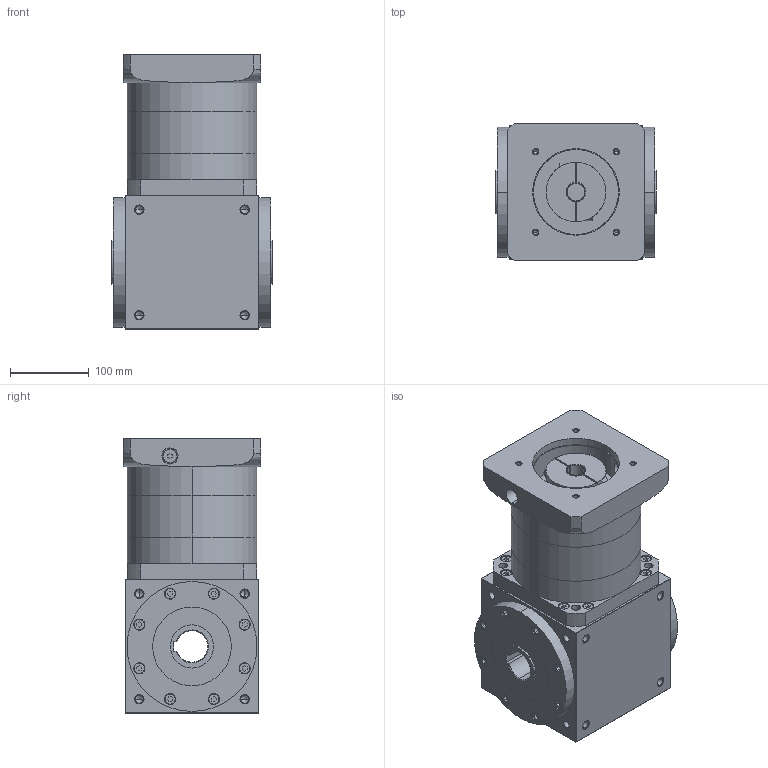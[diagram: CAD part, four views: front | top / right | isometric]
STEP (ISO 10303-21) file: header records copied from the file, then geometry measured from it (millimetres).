
FILE_DESCRIPTION (( 'STEP AP203' ), '1' );
FILE_NAME ('AT170-FH-L2-22-110-145M8.STEP', '2025-08-16T02:10:16', ( 'Windows User' ), ( 'P R C' ), 'SwSTEP 2.0', 'SolidWorks 2016', '' );
FILE_SCHEMA (( 'CONFIG_CONTROL_DESIGN' ));
Length unit declared in the file: millimetre
Products named in the file (6): AT170-蛌褒眊极-謂怀堤; AT170-蛌倰怀堤楊擘; AT170-输入法兰-D-24-60-110-M8-145; AT170-内齿圈108-1; 输入轴套-24-22; AT170-FH-L2-22-110-145M8
Assembly tree (5 placements, depth 2):
  AT170-FH-L2-22-110-145M8
    AT170-蛌褒眊极-謂怀堤
    AT170-蛌倰怀堤楊擘
    AT170-输入法兰-D-24-60-110-M8-145
    AT170-内齿圈108-1
    输入轴套-24-22
Bounding box: 204 x 175 x 349 mm (x, y, z)
Volume: 7384897.3 mm3; surface area: 686598.9 mm2
Topology: 5 solids, 21 shells, 1534 faces, 3892 edges, 2436 vertices
Faces by surface type: plane 798, cylinder 359, cone 259, bspline 118
Entity records: 53417 total; most frequent: CARTESIAN_POINT 17090, ORIENTED_EDGE 7544, DIRECTION 6979, EDGE_CURVE 3772, LINE 2517, VECTOR 2517, VERTEX_POINT 2436, AXIS2_PLACEMENT_3D 2231
